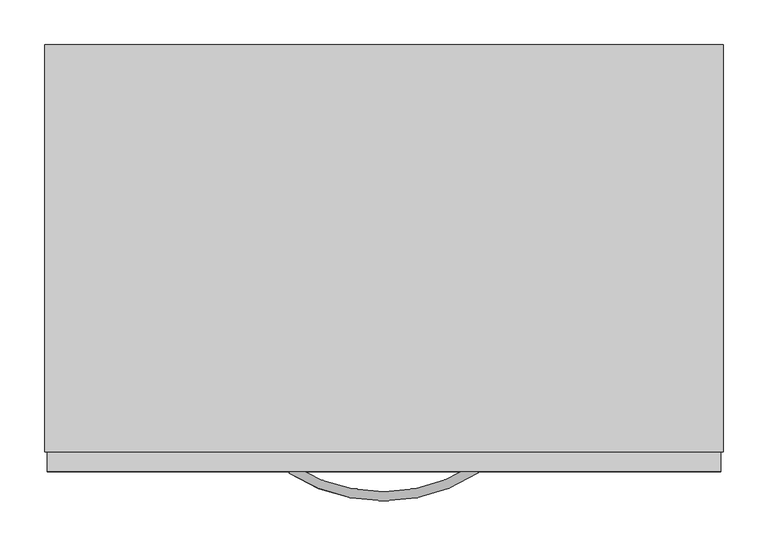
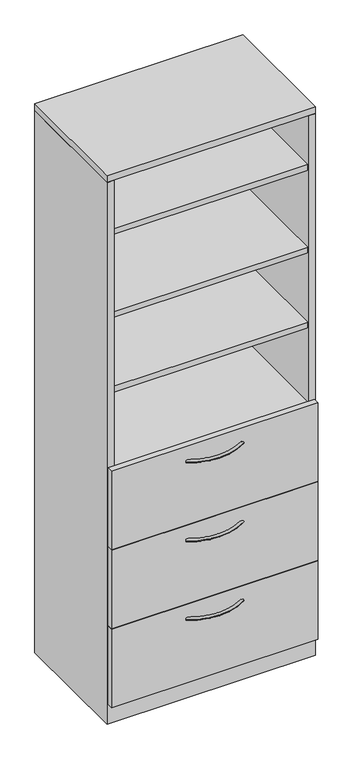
"""IFC4 building model written with IfcOpenShell, lengths in millimetres: furniture geometry, Steelcase - Universal Storage - Cabinet - Combination - Proud Steel : 83 1/2H - Open Cabinet/3 Drawers - 18 7/8D x 30W."""

from ifc_helpers import new_model, si_unit, point, frame, origin, place, context, project, spatial, polyline, circle_curve, ellipse_curve, trimmed, outline, extrude, faceted_brep, source, transform, mapped, element, save
from ifc_brep_helpers import plane_surface, revolved_surface, advanced_brep


def furniture_1ec8bbff(model_context):
    return source(origin(), model_context, "Body", "SolidModel", [
        extrude(outline(polyline([(736.6000242, -25.4000008), (736.6000242, -454.0250121), (25.4000008, -454.0250121), (25.4000008, -25.4000008), (736.6000242, -25.4000008)])), frame((0.0, 0.0, 965.2000242), z_axis=(0.0, 0.0, 1.0), x_axis=(1.0, 0.0, 0.0)), (0.0, 0.0, 1.0), 22.2249516),
        extrude(outline(polyline([(736.6000242, -25.4000008), (736.6000242, -454.0250121), (25.4000008, -454.0250121), (25.4000008, -25.4000008), (736.6000242, -25.4000008)])), frame((0.0, 0.0, 1273.1750484), z_axis=(0.0, 0.0, 1.0), x_axis=(1.0, 0.0, 0.0)), (0.0, 0.0, 1.0), 22.2249516),
        extrude(outline(polyline([(736.6000242, -25.4000008), (736.6000242, -454.0250121), (25.4000008, -454.0250121), (25.4000008, -25.4000008), (736.6000242, -25.4000008)])), frame((0.0, 0.0, 1562.7350484), z_axis=(0.0, 0.0, 1.0), x_axis=(1.0, 0.0, 0.0)), (0.0, 0.0, 1.0), 22.2249516),
        extrude(outline(polyline([(736.6000242, -25.4000008), (736.6000242, -454.0250121), (25.4000008, -454.0250121), (25.4000008, -25.4000008), (736.6000242, -25.4000008)])), frame((0.0, 0.0, 1882.7750484), z_axis=(0.0, 0.0, 1.0), x_axis=(1.0, 0.0, 0.0)), (0.0, 0.0, 1.0), 22.2249516),
        advanced_brep(
        [(274.4245932, -481.5705994, 323.56425), (279.8977519, -473.0108019, 323.56425), (486.7315136, -481.1337636, 323.56425), (481.2231767, -472.5965612, 323.56425)],
        [
            (0, 1, circle_curve(frame((277.1611726, -477.2907007, 323.56425), z_axis=(-0.8424997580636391, 0.5386967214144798, 0.0), x_axis=(0.5386967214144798, 0.8424997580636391, 0.0)), 5.08)),
            (1, 0, circle_curve(frame((277.1611726, -477.2907007, 323.56425), z_axis=(-0.8424997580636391, 0.5386967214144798, 0.0), x_axis=(0.5386967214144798, 0.8424997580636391, 0.0)), 5.08)),
            (2, 3, circle_curve(frame((483.9773452, -476.8651624, 323.56425), z_axis=(0.8402758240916, 0.5421591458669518, 0.0), x_axis=(-0.5421591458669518, 0.8402758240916, 0.0)), 5.08)),
            (3, 2, circle_curve(frame((483.9773452, -476.8651624, 323.56425), z_axis=(0.8402758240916, 0.5421591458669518, 0.0), x_axis=(-0.5421591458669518, 0.8402758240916, 0.0)), 5.08)),
            (3, 1, circle_curve(frame((380.2380004, -316.0827352, 323.56425), z_axis=(0.0, 0.0, -1.0), x_axis=(-0.5386967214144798, -0.8424997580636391, 0.0)), 186.2648211)),
            (0, 2, circle_curve(frame((380.2380004, -316.0827352, 323.56425), z_axis=(0.0, 0.0, 1.0), x_axis=(-0.5386967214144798, -0.8424997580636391, 0.0)), 196.4248211)),
        ],
        [
            plane_surface(frame((277.5794521, -476.6365286, 324.358), z_axis=(-0.8424997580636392, 0.5386967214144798, 0.0), x_axis=(0.0, 0.0, 1.0))),
            plane_surface(frame((483.5563772, -476.2127171, 324.358), z_axis=(0.8402758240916, 0.5421591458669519, 0.0), x_axis=(0.0, 0.0, 1.0))),
            revolved_surface(trimmed(ellipse_curve(frame((277.1611726, -477.2907007, 323.56425), z_axis=(-0.8424997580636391, 0.5386967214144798, 0.0), x_axis=(0.5386967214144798, 0.8424997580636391, 0.0)), 5.08, 5.08), [point((274.4245932, -481.5705994, 323.56425))], [point((279.8977519, -473.0108019, 323.56425))], True, "CARTESIAN"), (380.2380004, -316.0827352, 324.358), (0.0, 0.0, 1.0)),
            revolved_surface(trimmed(ellipse_curve(frame((277.1611726, -477.2907007, 323.56425), z_axis=(-0.8424997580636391, 0.5386967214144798, 0.0), x_axis=(0.5386967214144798, 0.8424997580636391, 0.0)), 5.08, 5.08), [point((279.8977519, -473.0108019, 323.56425))], [point((274.4245932, -481.5705994, 323.56425))], True, "CARTESIAN"), (380.2380004, -316.0827352, 324.358), (0.0, 0.0, 1.0)),
        ],
        [
            (0, [[1, 2]]),
            (1, [[3, 4]]),
            (2, [[5, -1, 6, -4]]),
            (3, [[-6, -2, -5, -3]]),
        ],
    ),
        advanced_brep(
        [(274.4245932, -481.5705994, 627.85625), (279.8977519, -473.0108019, 627.85625), (486.7315136, -481.1337636, 627.85625), (481.2231767, -472.5965612, 627.85625)],
        [
            (0, 1, circle_curve(frame((277.1611726, -477.2907007, 627.85625), z_axis=(-0.8424997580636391, 0.5386967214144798, 0.0), x_axis=(0.5386967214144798, 0.8424997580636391, 0.0)), 5.08)),
            (1, 0, circle_curve(frame((277.1611726, -477.2907007, 627.85625), z_axis=(-0.8424997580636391, 0.5386967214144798, 0.0), x_axis=(0.5386967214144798, 0.8424997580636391, 0.0)), 5.08)),
            (2, 3, circle_curve(frame((483.9773452, -476.8651624, 627.85625), z_axis=(0.8402758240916, 0.5421591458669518, 0.0), x_axis=(-0.5421591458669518, 0.8402758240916, 0.0)), 5.08)),
            (3, 2, circle_curve(frame((483.9773452, -476.8651624, 627.85625), z_axis=(0.8402758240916, 0.5421591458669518, 0.0), x_axis=(-0.5421591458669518, 0.8402758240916, 0.0)), 5.08)),
            (3, 1, circle_curve(frame((380.2380004, -316.0827352, 627.85625), z_axis=(0.0, 0.0, -1.0), x_axis=(-0.5386967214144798, -0.8424997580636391, 0.0)), 186.2648211)),
            (0, 2, circle_curve(frame((380.2380004, -316.0827352, 627.85625), z_axis=(0.0, 0.0, 1.0), x_axis=(-0.5386967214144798, -0.8424997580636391, 0.0)), 196.4248211)),
        ],
        [
            plane_surface(frame((277.5794521, -476.6365286, 628.65), z_axis=(-0.8424997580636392, 0.5386967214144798, 0.0), x_axis=(0.0, 0.0, 1.0))),
            plane_surface(frame((483.5563772, -476.2127171, 628.65), z_axis=(0.8402758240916, 0.5421591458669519, 0.0), x_axis=(0.0, 0.0, 1.0))),
            revolved_surface(trimmed(ellipse_curve(frame((277.1611726, -477.2907007, 627.85625), z_axis=(-0.8424997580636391, 0.5386967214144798, 0.0), x_axis=(0.5386967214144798, 0.8424997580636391, 0.0)), 5.08, 5.08), [point((274.4245932, -481.5705994, 627.85625))], [point((279.8977519, -473.0108019, 627.85625))], True, "CARTESIAN"), (380.2380004, -316.0827352, 628.65), (0.0, 0.0, 1.0)),
            revolved_surface(trimmed(ellipse_curve(frame((277.1611726, -477.2907007, 627.85625), z_axis=(-0.8424997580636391, 0.5386967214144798, 0.0), x_axis=(0.5386967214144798, 0.8424997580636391, 0.0)), 5.08, 5.08), [point((279.8977519, -473.0108019, 627.85625))], [point((274.4245932, -481.5705994, 627.85625))], True, "CARTESIAN"), (380.2380004, -316.0827352, 628.65), (0.0, 0.0, 1.0)),
        ],
        [
            (0, [[1, 2]]),
            (1, [[3, 4]]),
            (2, [[5, -1, 6, -4]]),
            (3, [[-6, -2, -5, -3]]),
        ],
    ),
        extrude(outline(polyline([(758.8225413, -479.552), (3.1725353, -479.552), (3.1725353, -457.3261219), (758.8225413, -457.3261219), (758.8225413, -479.552)])), frame((0.0, 0.0, 687.3240349), z_axis=(0.0, 0.0, 1.0), x_axis=(1.0, 0.0, 0.0)), (0.0, 0.0, 1.0), 303.2759651),
        advanced_brep(
        [(274.4245932, -481.5705994, 932.65625), (279.8977519, -473.0108019, 932.65625), (486.7315136, -481.1337636, 932.65625), (481.2231767, -472.5965612, 932.65625)],
        [
            (0, 1, circle_curve(frame((277.1611726, -477.2907007, 932.65625), z_axis=(-0.8424997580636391, 0.5386967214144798, 0.0), x_axis=(0.5386967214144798, 0.8424997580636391, 0.0)), 5.08)),
            (1, 0, circle_curve(frame((277.1611726, -477.2907007, 932.65625), z_axis=(-0.8424997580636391, 0.5386967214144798, 0.0), x_axis=(0.5386967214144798, 0.8424997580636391, 0.0)), 5.08)),
            (2, 3, circle_curve(frame((483.9773452, -476.8651624, 932.65625), z_axis=(0.8402758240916, 0.5421591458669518, 0.0), x_axis=(-0.5421591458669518, 0.8402758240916, 0.0)), 5.08)),
            (3, 2, circle_curve(frame((483.9773452, -476.8651624, 932.65625), z_axis=(0.8402758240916, 0.5421591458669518, 0.0), x_axis=(-0.5421591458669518, 0.8402758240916, 0.0)), 5.08)),
            (3, 1, circle_curve(frame((380.2380004, -316.0827352, 932.65625), z_axis=(0.0, 0.0, -1.0), x_axis=(-0.5386967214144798, -0.8424997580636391, 0.0)), 186.2648211)),
            (0, 2, circle_curve(frame((380.2380004, -316.0827352, 932.65625), z_axis=(0.0, 0.0, 1.0), x_axis=(-0.5386967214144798, -0.8424997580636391, 0.0)), 196.4248211)),
        ],
        [
            plane_surface(frame((277.5794521, -476.6365286, 933.45), z_axis=(-0.8424997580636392, 0.5386967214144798, 0.0), x_axis=(0.0, 0.0, 1.0))),
            plane_surface(frame((483.5563772, -476.2127171, 933.45), z_axis=(0.8402758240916, 0.5421591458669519, 0.0), x_axis=(0.0, 0.0, 1.0))),
            revolved_surface(trimmed(ellipse_curve(frame((277.1611726, -477.2907007, 932.65625), z_axis=(-0.8424997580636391, 0.5386967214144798, 0.0), x_axis=(0.5386967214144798, 0.8424997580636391, 0.0)), 5.08, 5.08), [point((274.4245932, -481.5705994, 932.65625))], [point((279.8977519, -473.0108019, 932.65625))], True, "CARTESIAN"), (380.2380004, -316.0827352, 933.45), (0.0, 0.0, 1.0)),
            revolved_surface(trimmed(ellipse_curve(frame((277.1611726, -477.2907007, 932.65625), z_axis=(-0.8424997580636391, 0.5386967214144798, 0.0), x_axis=(0.5386967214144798, 0.8424997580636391, 0.0)), 5.08, 5.08), [point((279.8977519, -473.0108019, 932.65625))], [point((274.4245932, -481.5705994, 932.65625))], True, "CARTESIAN"), (380.2380004, -316.0827352, 933.45), (0.0, 0.0, 1.0)),
        ],
        [
            (0, [[1, 2]]),
            (1, [[3, 4]]),
            (2, [[5, -1, 6, -4]]),
            (3, [[-6, -2, -5, -3]]),
        ],
    ),
        faceted_brep([(25.4000008, -457.3261219, 76.2), (736.6000242, -457.3261219, 76.2), (736.6000242, -25.4000008, 76.2), (25.4000008, -25.4000008, 76.2), (762.0, 0.0, 0.0), (762.0, -457.3261219, 0.0), (0.0, -457.3261219, 0.0), (0.0, 0.0, 0.0), (0.0, 0.0, 2093.976), (762.0, 0.0, 2093.976), (0.0, -457.3261219, 2093.976), (762.0, -457.3261219, 2093.976), (736.6000242, -457.3261219, 2093.976), (25.4000008, -457.3261219, 2093.976), (736.6000242, -25.4000008, 2093.976), (25.4000008, -25.4000008, 2093.976)], [[[0, 1, 2, 3]], [[4, 5, 6, 7]], [[4, 7, 8, 9]], [[8, 7, 6, 10]], [[10, 6, 5, 11, 12, 1, 0, 13]], [[11, 5, 4, 9]], [[14, 12, 11, 9, 8, 10, 13, 15]], [[12, 14, 2, 1]], [[15, 13, 0, 3]], [[14, 15, 3, 2]]]),
        extrude(outline(polyline([(758.8225413, -479.552), (3.1725353, -479.552), (3.1725353, -457.3261219), (758.8225413, -457.3261219), (758.8225413, -479.552)])), frame((0.0, 0.0, 77.724), z_axis=(0.0, 0.0, 1.0), x_axis=(1.0, 0.0, 0.0)), (0.0, 0.0, 1.0), 303.276),
        extrude(outline(polyline([(758.8225413, -479.552), (3.1725353, -479.552), (3.1725353, -457.3261219), (758.8225413, -457.3261219), (758.8225413, -479.552)])), frame((0.0, 0.0, 382.524), z_axis=(0.0, 0.0, 1.0), x_axis=(1.0, 0.0, 0.0)), (0.0, 0.0, 1.0), 303.276),
        extrude(outline(polyline([(762.0, 0.0), (762.0, -457.3261219), (0.0, -457.3261219), (0.0, 0.0), (762.0, 0.0)])), frame((0.0, 0.0, 2095.4999516), z_axis=(0.0, 0.0, 1.0), x_axis=(1.0, 0.0, 0.0)), (0.0, 0.0, 1.0), 25.4000484),
    ])


if __name__ == "__main__":
    model = new_model("IFC4")
    model_context = context("Model", 3, world=origin())
    ifc_project = project(units=[si_unit("LENGTHUNIT", "METRE", prefix="MILLI")], contexts=[model_context])
    site = spatial("IfcSite", under=ifc_project)
    building = spatial("IfcBuilding", under=site)
    placement = place(None, origin())
    furniture_shape = furniture_1ec8bbff(model_context)
    element("IfcFurniture", 1, ObjectType="Steelcase - Universal Storage - Cabinet - Combination - Proud Steel : 83 1/2H - Open Cabinet/3 Drawers - 18 7/8D x 30W", at=placement, inside=building, context=model_context, shape_type="MappedRepresentation", body=[
        mapped(furniture_shape, transform((0.0, 0.0, 0.0), x_axis=(1.0, 0.0, 0.0), y_axis=(0.0, 1.0, 0.0), z_axis=(0.0, 0.0, 1.0))),
    ])
    save(model, "model.ifc")
